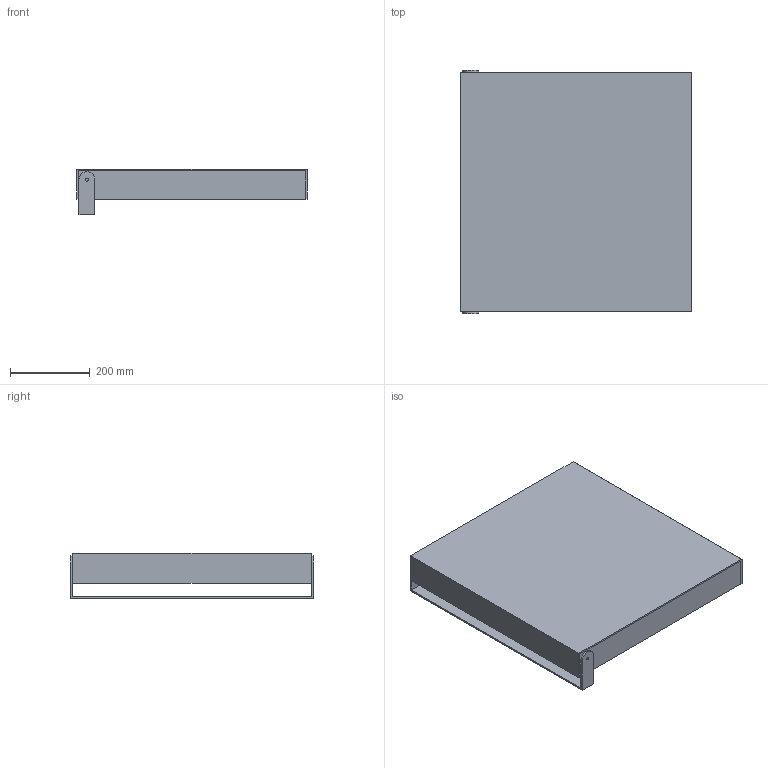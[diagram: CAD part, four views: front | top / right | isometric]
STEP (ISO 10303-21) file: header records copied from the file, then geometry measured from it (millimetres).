
FILE_DESCRIPTION (( 'STEP AP203' ), '1' );
FILE_NAME ('MB 60.STEP', '2019-02-01T14:31:01', ( '' ), ( '' ), 'SwSTEP 2.0', 'SolidWorks 2019', '' );
FILE_SCHEMA (( 'CONFIG_CONTROL_DESIGN' ));
Length unit declared in the file: millimetre
Products named in the file (4): MB 60; ATTACCO A PARETE; SPECCHIO MIRROR BOOK SINGOLO 58; SCOCCA MIRROR BOOK SINGOLO 58
Assembly tree (3 placements, depth 2):
  MB 60
    ATTACCO A PARETE
    SCOCCA MIRROR BOOK SINGOLO 58
    SPECCHIO MIRROR BOOK SINGOLO 58
Bounding box: 580 x 612 x 114 mm (x, y, z)
Volume: 5270113.5 mm3; surface area: 2172792.4 mm2
Topology: 4 solids, 4 shells, 57 faces, 144 edges, 96 vertices
Faces by surface type: plane 45, cylinder 12
Entity records: 2134 total; most frequent: CARTESIAN_POINT 303, DIRECTION 294, ORIENTED_EDGE 288, EDGE_CURVE 144, LINE 120, VECTOR 120, VERTEX_POINT 96, AXIS2_PLACEMENT_3D 87
